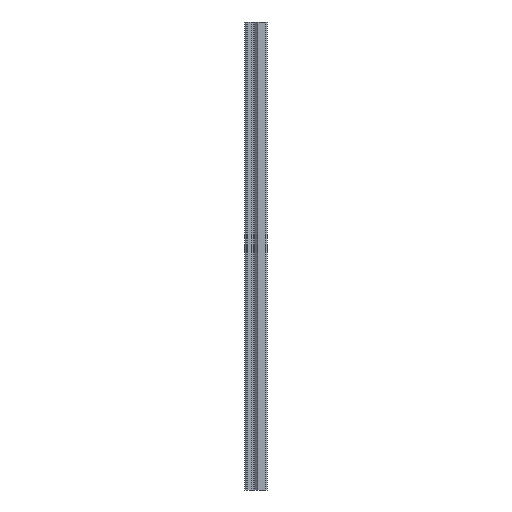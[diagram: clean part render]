
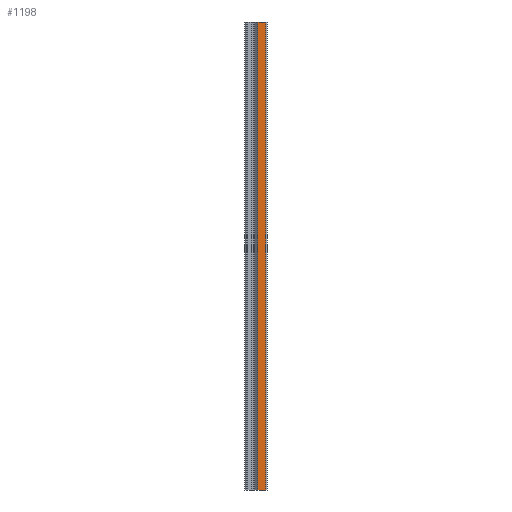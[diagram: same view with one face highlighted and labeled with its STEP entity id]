
A CAD part, left-side view. The second image highlights one B-rep face of the part: STEP entity #1198.
In plain terms, the highlighted planar face has unit normal (-1, 0, 0).
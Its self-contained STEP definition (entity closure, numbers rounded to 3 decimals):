
#91 = DIRECTION ( 'NONE',  ( 0., -1., 0. ) ) ;
#188 = DIRECTION ( 'NONE',  ( 0., 0., 1. ) ) ;
#190 = CARTESIAN_POINT ( 'NONE',  ( -11.5, 7.95, -200. ) ) ;
#229 = LINE ( 'NONE', #1305, #2127 ) ;
#232 = LINE ( 'NONE', #986, #1692 ) ;
#243 = VERTEX_POINT ( 'NONE', #1623 ) ;
#338 = EDGE_LOOP ( 'NONE', ( #1185, #1653, #597, #2101 ) ) ;
#409 = CARTESIAN_POINT ( 'NONE',  ( -11.5, 1.25, -200. ) ) ;
#498 = FACE_OUTER_BOUND ( 'NONE', #338, .T. ) ;
#597 = ORIENTED_EDGE ( 'NONE', *, *, #919, .F. ) ;
#666 = AXIS2_PLACEMENT_3D ( 'NONE', #1543, #1043, #1210 ) ;
#753 = DIRECTION ( 'NONE',  ( 0., -1., 0. ) ) ;
#757 = CARTESIAN_POINT ( 'NONE',  ( -11.5, 19.2, 200. ) ) ;
#919 = EDGE_CURVE ( 'NONE', #243, #1737, #1647, .T. ) ;
#986 = CARTESIAN_POINT ( 'NONE',  ( -11.5, 19.2, -200. ) ) ;
#1013 = EDGE_CURVE ( 'NONE', #1698, #243, #1134, .T. ) ;
#1043 = DIRECTION ( 'NONE',  ( 1., 0., 0. ) ) ;
#1048 = PLANE ( 'NONE',  #666 ) ;
#1134 = LINE ( 'NONE', #1658, #1409 ) ;
#1185 = ORIENTED_EDGE ( 'NONE', *, *, #1504, .T. ) ;
#1198 = ADVANCED_FACE ( 'NONE', ( #498 ), #1048, .F. ) ;
#1210 = DIRECTION ( 'NONE',  ( 0., 1., 0. ) ) ;
#1244 = VECTOR ( 'NONE', #91, 1000. ) ;
#1295 = VERTEX_POINT ( 'NONE', #409 ) ;
#1305 = CARTESIAN_POINT ( 'NONE',  ( -11.5, 1.25, 200. ) ) ;
#1409 = VECTOR ( 'NONE', #1823, 1000. ) ;
#1504 = EDGE_CURVE ( 'NONE', #1698, #1295, #232, .T. ) ;
#1543 = CARTESIAN_POINT ( 'NONE',  ( -11.5, 19.2, 200. ) ) ;
#1623 = CARTESIAN_POINT ( 'NONE',  ( -11.5, 7.95, 200. ) ) ;
#1647 = LINE ( 'NONE', #757, #1244 ) ;
#1653 = ORIENTED_EDGE ( 'NONE', *, *, #2093, .T. ) ;
#1658 = CARTESIAN_POINT ( 'NONE',  ( -11.5, 7.95, -200. ) ) ;
#1692 = VECTOR ( 'NONE', #753, 1000. ) ;
#1698 = VERTEX_POINT ( 'NONE', #190 ) ;
#1737 = VERTEX_POINT ( 'NONE', #1774 ) ;
#1774 = CARTESIAN_POINT ( 'NONE',  ( -11.5, 1.25, 200. ) ) ;
#1823 = DIRECTION ( 'NONE',  ( 0., 0., 1. ) ) ;
#2093 = EDGE_CURVE ( 'NONE', #1295, #1737, #229, .T. ) ;
#2101 = ORIENTED_EDGE ( 'NONE', *, *, #1013, .F. ) ;
#2127 = VECTOR ( 'NONE', #188, 1000. ) ;
